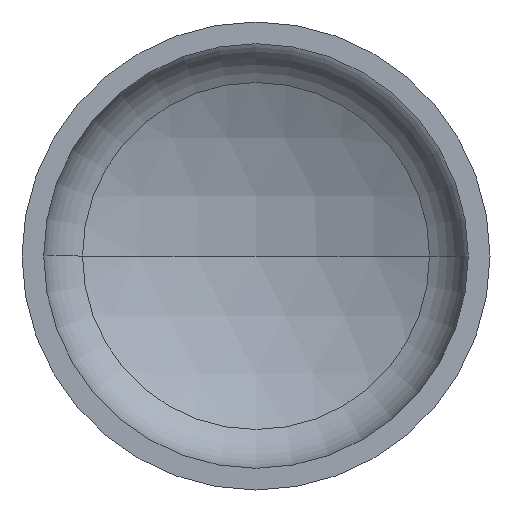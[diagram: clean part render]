
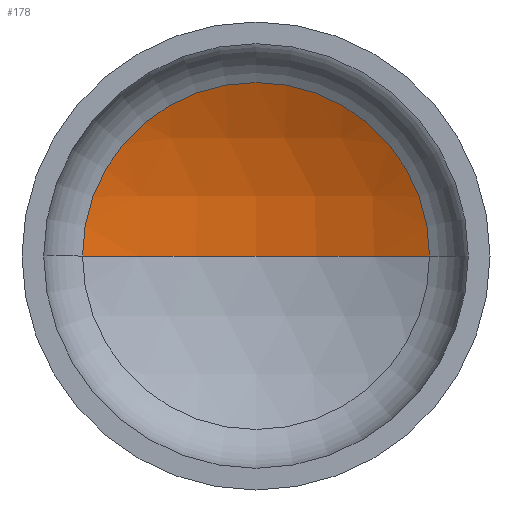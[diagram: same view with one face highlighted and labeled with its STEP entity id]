
A CAD part, front view. The second image highlights one B-rep face of the part: STEP entity #178.
In plain terms, the highlighted spherical face has radius 1760 mm.
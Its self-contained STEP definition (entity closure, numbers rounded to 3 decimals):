
#3 = DIRECTION ( 'NONE',  ( 0., 0., -1. ) ) ;
#6 = DIRECTION ( 'NONE',  ( 0., 0., 1. ) ) ;
#9 = CARTESIAN_POINT ( 'NONE',  ( 0., -1183.347, 0. ) ) ;
#19 = EDGE_LOOP ( 'NONE', ( #121, #96, #373 ) ) ;
#28 = AXIS2_PLACEMENT_3D ( 'NONE', #356, #165, #215 ) ;
#34 = AXIS2_PLACEMENT_3D ( 'NONE', #9, #6, #306 ) ;
#38 = AXIS2_PLACEMENT_3D ( 'NONE', #218, #3, #260 ) ;
#44 = AXIS2_PLACEMENT_3D ( 'NONE', #190, #192, #199 ) ;
#68 = VERTEX_POINT ( 'NONE', #257 ) ;
#89 = EDGE_CURVE ( 'NONE', #68, #116, #320, .T. ) ;
#91 = EDGE_CURVE ( 'NONE', #154, #68, #259, .T. ) ;
#92 = CIRCLE ( 'NONE', #34, 1760. ) ;
#93 = EDGE_CURVE ( 'NONE', #154, #116, #92, .T. ) ;
#96 = ORIENTED_EDGE ( 'NONE', *, *, #91, .T. ) ;
#116 = VERTEX_POINT ( 'NONE', #208 ) ;
#121 = ORIENTED_EDGE ( 'NONE', *, *, #93, .F. ) ;
#154 = VERTEX_POINT ( 'NONE', #185 ) ;
#165 = DIRECTION ( 'NONE',  ( 0., 0., -1. ) ) ;
#178 = ADVANCED_FACE ( 'NONE', ( #312 ), #372, .F. ) ;
#185 = CARTESIAN_POINT ( 'NONE',  ( 0., 576.653, 0. ) ) ;
#190 = CARTESIAN_POINT ( 'NONE',  ( 0., 376.294, 0. ) ) ;
#192 = DIRECTION ( 'NONE',  ( 0., -1., 0. ) ) ;
#199 = DIRECTION ( 'NONE',  ( 1., 0., 0. ) ) ;
#208 = CARTESIAN_POINT ( 'NONE',  ( -815.549, 376.294, 0. ) ) ;
#215 = DIRECTION ( 'NONE',  ( -1., 0., 0. ) ) ;
#218 = CARTESIAN_POINT ( 'NONE',  ( 0., -1183.347, 0. ) ) ;
#257 = CARTESIAN_POINT ( 'NONE',  ( 815.549, 376.294, 0. ) ) ;
#259 = CIRCLE ( 'NONE', #38, 1760. ) ;
#260 = DIRECTION ( 'NONE',  ( -1., 0., 0. ) ) ;
#306 = DIRECTION ( 'NONE',  ( 1., 0., 0. ) ) ;
#312 = FACE_OUTER_BOUND ( 'NONE', #19, .T. ) ;
#320 = CIRCLE ( 'NONE', #44, 815.549 ) ;
#356 = CARTESIAN_POINT ( 'NONE',  ( 0., -1183.347, 0. ) ) ;
#372 = SPHERICAL_SURFACE ( 'NONE', #28, 1760. ) ;
#373 = ORIENTED_EDGE ( 'NONE', *, *, #89, .T. ) ;
